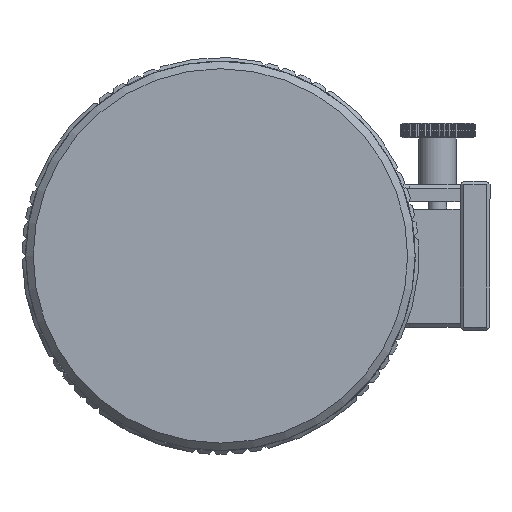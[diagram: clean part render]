
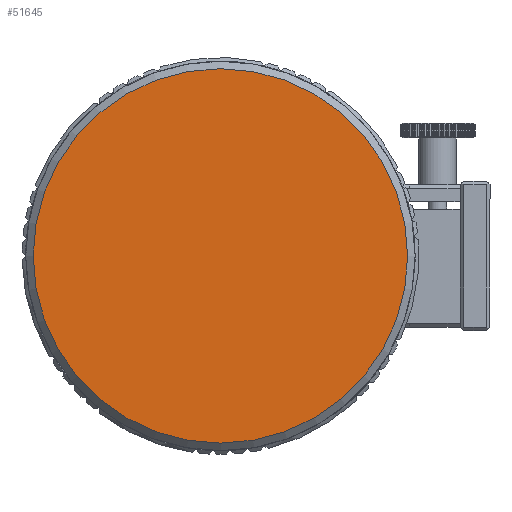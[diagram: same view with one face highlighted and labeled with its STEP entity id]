
A CAD part, left-side view. The second image highlights one B-rep face of the part: STEP entity #51645.
In plain terms, the highlighted planar face has unit normal (-1, 0, 0).
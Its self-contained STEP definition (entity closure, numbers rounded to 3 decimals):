
#51625=CARTESIAN_POINT('',(-172.682,-50.,0.044));
#51626=VERTEX_POINT('',#51625);
#51627=CARTESIAN_POINT('',(-172.682,0.,0.));
#51628=DIRECTION('',(1.0,0.,0.));
#51629=DIRECTION('',(0.,1.,-0.001));
#51630=AXIS2_PLACEMENT_3D('',#51627,#51628,#51629);
#51631=CIRCLE('',#51630,50.);
#51632=EDGE_CURVE('',#51626,#51626,#51631,.T.);
#51637=CARTESIAN_POINT('',(-172.682,-49.75,0.044));
#51638=DIRECTION('',(-1.0,0.0,0.0));
#51639=DIRECTION('',(0.0,0.001,1.));
#51640=AXIS2_PLACEMENT_3D('',#51637,#51638,#51639);
#51641=PLANE('',#51640);
#51642=ORIENTED_EDGE('',*,*,#51632,.F.);
#51643=EDGE_LOOP('',(#51642));
#51644=FACE_OUTER_BOUND('',#51643,.T.);
#51645=ADVANCED_FACE('',(#51644),#51641,.T.);
